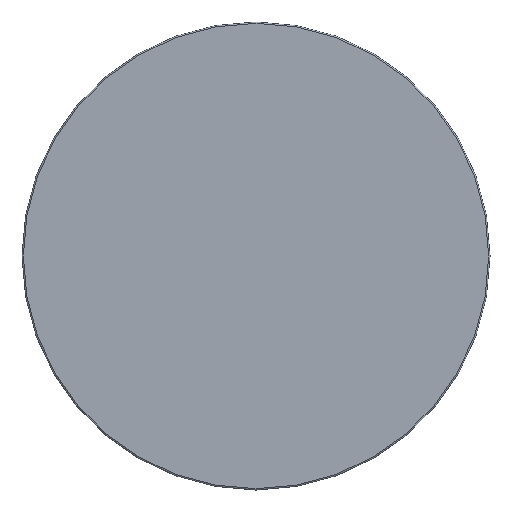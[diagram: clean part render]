
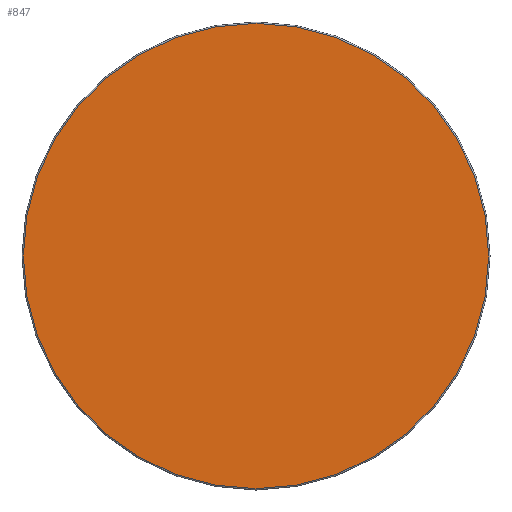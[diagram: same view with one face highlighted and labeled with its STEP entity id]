
A CAD part, left-side view. The second image highlights one B-rep face of the part: STEP entity #847.
In plain terms, the highlighted planar face has unit normal (-1, 0, 0).
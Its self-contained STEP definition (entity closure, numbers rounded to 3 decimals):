
#824=CARTESIAN_POINT('',(0.,174.0,0.0));
#825=VERTEX_POINT('',#824);
#826=CARTESIAN_POINT('',(0.,0.0,0.0));
#827=DIRECTION('',(1.0,0.0,0.0));
#828=DIRECTION('',(0.0,-1.0,0.0));
#829=AXIS2_PLACEMENT_3D('',#826,#827,#828);
#830=CIRCLE('',#829,174.0);
#831=EDGE_CURVE('',#825,#825,#830,.T.);
#839=CARTESIAN_POINT('',(0.,144.718,0.));
#840=DIRECTION('',(-1.0,0.0,0.0));
#841=DIRECTION('',(0.0,0.0,1.0));
#842=AXIS2_PLACEMENT_3D('',#839,#840,#841);
#843=PLANE('',#842);
#844=ORIENTED_EDGE('',*,*,#831,.F.);
#845=EDGE_LOOP('',(#844));
#846=FACE_OUTER_BOUND('',#845,.T.);
#847=ADVANCED_FACE('',(#846),#843,.T.);
